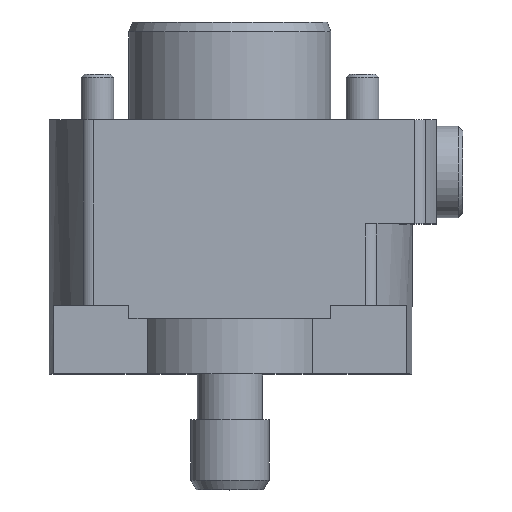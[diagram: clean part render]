
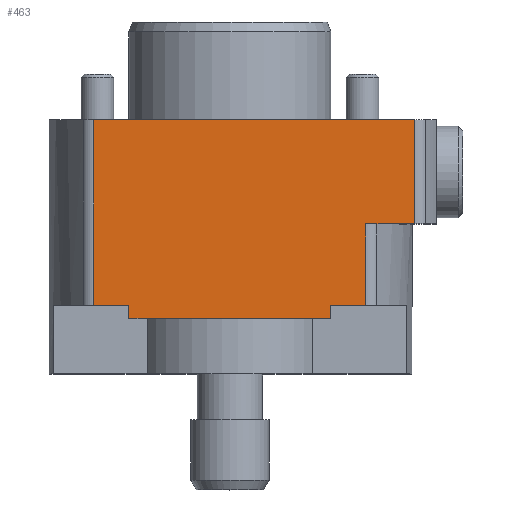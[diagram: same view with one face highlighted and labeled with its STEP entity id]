
A CAD part, top view. The second image highlights one B-rep face of the part: STEP entity #463.
In plain terms, the highlighted planar face has unit normal (0, 0, 1).
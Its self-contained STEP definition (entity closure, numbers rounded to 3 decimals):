
#82 = DIRECTION ( 'NONE',  ( 1., 0., 0. ) ) ;
#91 = CARTESIAN_POINT ( 'NONE',  ( -28.001, 0., 17.5 ) ) ;
#100 = CARTESIAN_POINT ( 'NONE',  ( 15.5, -30.5, 17.5 ) ) ;
#131 = DIRECTION ( 'NONE',  ( 0., -1., 0. ) ) ;
#184 = LINE ( 'NONE', #1247, #876 ) ;
#204 = EDGE_CURVE ( 'NONE', #615, #413, #945, .T. ) ;
#223 = DIRECTION ( 'NONE',  ( 0., -1., 0. ) ) ;
#245 = CARTESIAN_POINT ( 'NONE',  ( 28.281, 0., 17.5 ) ) ;
#253 = DIRECTION ( 'NONE',  ( 0., 1., 0. ) ) ;
#274 = ORIENTED_EDGE ( 'NONE', *, *, #1308, .T. ) ;
#296 = CARTESIAN_POINT ( 'NONE',  ( -28.001, 0., 17.5 ) ) ;
#300 = ORIENTED_EDGE ( 'NONE', *, *, #1128, .F. ) ;
#392 = CARTESIAN_POINT ( 'NONE',  ( -27.75, -28.5, 17.5 ) ) ;
#400 = FACE_OUTER_BOUND ( 'NONE', #1358, .T. ) ;
#413 = VERTEX_POINT ( 'NONE', #1688 ) ;
#420 = EDGE_CURVE ( 'NONE', #461, #615, #1041, .T. ) ;
#461 = VERTEX_POINT ( 'NONE', #1203 ) ;
#463 = ADVANCED_FACE ( 'NONE', ( #400 ), #824, .T. ) ;
#499 = CARTESIAN_POINT ( 'NONE',  ( -28.001, -16., 17.5 ) ) ;
#503 = ORIENTED_EDGE ( 'NONE', *, *, #1150, .T. ) ;
#507 = EDGE_CURVE ( 'NONE', #1146, #830, #1328, .T. ) ;
#539 = VECTOR ( 'NONE', #1558, 1000. ) ;
#615 = VERTEX_POINT ( 'NONE', #1514 ) ;
#624 = LINE ( 'NONE', #91, #1037 ) ;
#677 = DIRECTION ( 'NONE',  ( 1., 0., 0. ) ) ;
#684 = VECTOR ( 'NONE', #1278, 1000. ) ;
#695 = CARTESIAN_POINT ( 'NONE',  ( -15.5, -30.5, 17.5 ) ) ;
#700 = EDGE_CURVE ( 'NONE', #413, #1131, #745, .T. ) ;
#745 = LINE ( 'NONE', #499, #684 ) ;
#768 = CARTESIAN_POINT ( 'NONE',  ( -15.5, -30.5, 17.5 ) ) ;
#796 = CARTESIAN_POINT ( 'NONE',  ( -15.5, -28.5, 17.5 ) ) ;
#816 = DIRECTION ( 'NONE',  ( 0., 1., 0. ) ) ;
#824 = PLANE ( 'NONE',  #1515 ) ;
#830 = VERTEX_POINT ( 'NONE', #796 ) ;
#876 = VECTOR ( 'NONE', #1113, 1000. ) ;
#897 = ORIENTED_EDGE ( 'NONE', *, *, #1186, .F. ) ;
#921 = LINE ( 'NONE', #245, #1192 ) ;
#945 = LINE ( 'NONE', #1481, #1212 ) ;
#960 = CARTESIAN_POINT ( 'NONE',  ( 15.5, -30.5, 17.5 ) ) ;
#970 = VERTEX_POINT ( 'NONE', #695 ) ;
#1016 = CARTESIAN_POINT ( 'NONE',  ( -27.75, -28.5, 17.5 ) ) ;
#1037 = VECTOR ( 'NONE', #82, 1000. ) ;
#1041 = LINE ( 'NONE', #1016, #539 ) ;
#1109 = ORIENTED_EDGE ( 'NONE', *, *, #700, .T. ) ;
#1113 = DIRECTION ( 'NONE',  ( -1., 0., 0. ) ) ;
#1127 = LINE ( 'NONE', #1389, #1393 ) ;
#1128 = EDGE_CURVE ( 'NONE', #1406, #970, #184, .T. ) ;
#1131 = VERTEX_POINT ( 'NONE', #1539 ) ;
#1146 = VERTEX_POINT ( 'NONE', #1546 ) ;
#1150 = EDGE_CURVE ( 'NONE', #1406, #461, #1391, .T. ) ;
#1163 = VERTEX_POINT ( 'NONE', #1399 ) ;
#1186 = EDGE_CURVE ( 'NONE', #970, #830, #1283, .T. ) ;
#1192 = VECTOR ( 'NONE', #253, 1000. ) ;
#1203 = CARTESIAN_POINT ( 'NONE',  ( 15.5, -28.5, 17.5 ) ) ;
#1212 = VECTOR ( 'NONE', #816, 1000. ) ;
#1213 = ORIENTED_EDGE ( 'NONE', *, *, #507, .T. ) ;
#1247 = CARTESIAN_POINT ( 'NONE',  ( -15.5, -30.5, 17.5 ) ) ;
#1278 = DIRECTION ( 'NONE',  ( 1., 0., 0. ) ) ;
#1283 = LINE ( 'NONE', #768, #1373 ) ;
#1308 = EDGE_CURVE ( 'NONE', #1131, #1681, #921, .T. ) ;
#1310 = CARTESIAN_POINT ( 'NONE',  ( 28.281, 0., 17.5 ) ) ;
#1315 = VECTOR ( 'NONE', #1417, 1000. ) ;
#1328 = LINE ( 'NONE', #392, #1597 ) ;
#1339 = ORIENTED_EDGE ( 'NONE', *, *, #204, .T. ) ;
#1358 = EDGE_LOOP ( 'NONE', ( #1213, #897, #300, #503, #1634, #1339, #1109, #274, #1593, #1646 ) ) ;
#1373 = VECTOR ( 'NONE', #1682, 1000. ) ;
#1389 = CARTESIAN_POINT ( 'NONE',  ( -20.875, 0., 17.5 ) ) ;
#1391 = LINE ( 'NONE', #100, #1315 ) ;
#1393 = VECTOR ( 'NONE', #223, 1000. ) ;
#1399 = CARTESIAN_POINT ( 'NONE',  ( -20.875, 0., 17.5 ) ) ;
#1406 = VERTEX_POINT ( 'NONE', #960 ) ;
#1417 = DIRECTION ( 'NONE',  ( 0., 1., 0. ) ) ;
#1459 = DIRECTION ( 'NONE',  ( 0., 0., 1. ) ) ;
#1481 = CARTESIAN_POINT ( 'NONE',  ( 20.875, 0., 17.5 ) ) ;
#1514 = CARTESIAN_POINT ( 'NONE',  ( 20.875, -28.5, 17.5 ) ) ;
#1515 = AXIS2_PLACEMENT_3D ( 'NONE', #296, #1459, #131 ) ;
#1539 = CARTESIAN_POINT ( 'NONE',  ( 28.281, -16., 17.5 ) ) ;
#1546 = CARTESIAN_POINT ( 'NONE',  ( -20.875, -28.5, 17.5 ) ) ;
#1558 = DIRECTION ( 'NONE',  ( 1., 0., 0. ) ) ;
#1593 = ORIENTED_EDGE ( 'NONE', *, *, #1606, .F. ) ;
#1597 = VECTOR ( 'NONE', #677, 1000. ) ;
#1606 = EDGE_CURVE ( 'NONE', #1163, #1681, #624, .T. ) ;
#1628 = EDGE_CURVE ( 'NONE', #1163, #1146, #1127, .T. ) ;
#1634 = ORIENTED_EDGE ( 'NONE', *, *, #420, .T. ) ;
#1646 = ORIENTED_EDGE ( 'NONE', *, *, #1628, .T. ) ;
#1681 = VERTEX_POINT ( 'NONE', #1310 ) ;
#1682 = DIRECTION ( 'NONE',  ( 0., 1., 0. ) ) ;
#1688 = CARTESIAN_POINT ( 'NONE',  ( 20.875, -16., 17.5 ) ) ;
